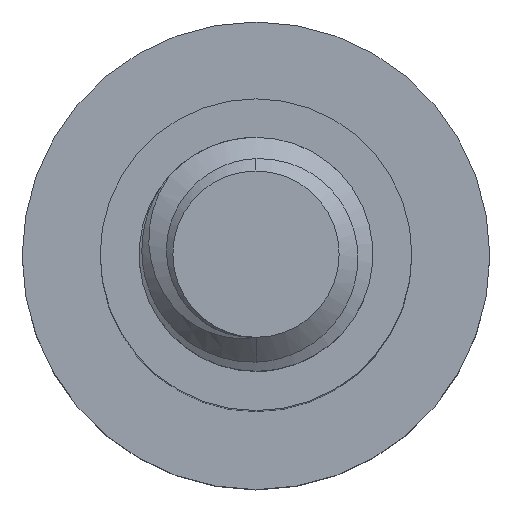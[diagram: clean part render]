
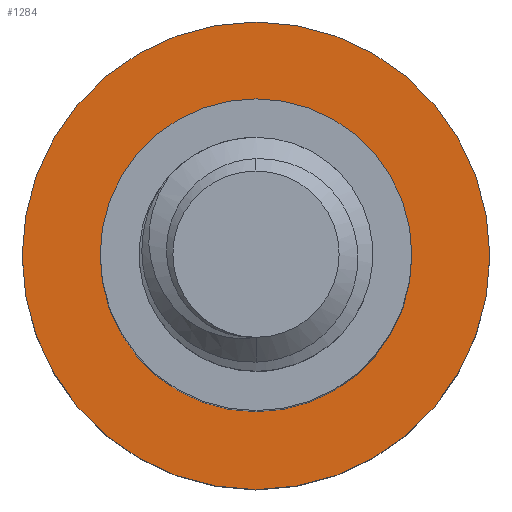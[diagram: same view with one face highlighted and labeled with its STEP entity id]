
A CAD part, top view. The second image highlights one B-rep face of the part: STEP entity #1284.
In plain terms, the highlighted planar face has unit normal (0, 0, 1).
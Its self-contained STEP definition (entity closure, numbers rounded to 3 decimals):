
#5 = DIRECTION ( 'NONE',  ( -1., 0., 0. ) ) ;
#9 = CARTESIAN_POINT ( 'NONE',  ( 0., 0., -8. ) ) ;
#72 = FACE_BOUND ( 'NONE', #2041, .T. ) ;
#234 = DIRECTION ( 'NONE',  ( 0., 0., -1. ) ) ;
#250 = AXIS2_PLACEMENT_3D ( 'NONE', #1988, #234, #2146 ) ;
#326 = CIRCLE ( 'NONE', #717, 2. ) ;
#369 = PLANE ( 'NONE',  #1776 ) ;
#402 = VERTEX_POINT ( 'NONE', #865 ) ;
#559 = DIRECTION ( 'NONE',  ( -1., 0., 0. ) ) ;
#598 = CARTESIAN_POINT ( 'NONE',  ( 2., 0., -8. ) ) ;
#697 = ORIENTED_EDGE ( 'NONE', *, *, #1350, .F. ) ;
#717 = AXIS2_PLACEMENT_3D ( 'NONE', #1059, #1270, #559 ) ;
#820 = EDGE_CURVE ( 'NONE', #402, #1151, #1406, .T. ) ;
#821 = CIRCLE ( 'NONE', #250, 3. ) ;
#855 = CARTESIAN_POINT ( 'NONE',  ( -3., 0., -8. ) ) ;
#865 = CARTESIAN_POINT ( 'NONE',  ( 3., 0., -8. ) ) ;
#883 = DIRECTION ( 'NONE',  ( 0., 0., -1. ) ) ;
#932 = DIRECTION ( 'NONE',  ( 0., 0., -1. ) ) ;
#944 = ORIENTED_EDGE ( 'NONE', *, *, #820, .F. ) ;
#949 = EDGE_CURVE ( 'NONE', #2241, #1275, #326, .T. ) ;
#1009 = ORIENTED_EDGE ( 'NONE', *, *, #949, .T. ) ;
#1059 = CARTESIAN_POINT ( 'NONE',  ( 0., 0., -8. ) ) ;
#1151 = VERTEX_POINT ( 'NONE', #855 ) ;
#1220 = DIRECTION ( 'NONE',  ( -1., 0., 0. ) ) ;
#1223 = AXIS2_PLACEMENT_3D ( 'NONE', #1383, #1873, #2248 ) ;
#1270 = DIRECTION ( 'NONE',  ( 0., 0., -1. ) ) ;
#1275 = VERTEX_POINT ( 'NONE', #1438 ) ;
#1284 = ADVANCED_FACE ( 'NONE', ( #72, #1635 ), #369, .F. ) ;
#1350 = EDGE_CURVE ( 'NONE', #1151, #402, #821, .T. ) ;
#1383 = CARTESIAN_POINT ( 'NONE',  ( 0., 0., -8. ) ) ;
#1406 = CIRCLE ( 'NONE', #1631, 3. ) ;
#1438 = CARTESIAN_POINT ( 'NONE',  ( -2., 0., -8. ) ) ;
#1475 = CARTESIAN_POINT ( 'NONE',  ( 0., 0., -8. ) ) ;
#1631 = AXIS2_PLACEMENT_3D ( 'NONE', #9, #883, #1220 ) ;
#1635 = FACE_OUTER_BOUND ( 'NONE', #2112, .T. ) ;
#1776 = AXIS2_PLACEMENT_3D ( 'NONE', #1475, #932, #5 ) ;
#1873 = DIRECTION ( 'NONE',  ( 0., 0., -1. ) ) ;
#1965 = CIRCLE ( 'NONE', #1223, 2. ) ;
#1988 = CARTESIAN_POINT ( 'NONE',  ( 0., 0., -8. ) ) ;
#2023 = EDGE_CURVE ( 'NONE', #1275, #2241, #1965, .T. ) ;
#2041 = EDGE_LOOP ( 'NONE', ( #2129, #1009 ) ) ;
#2112 = EDGE_LOOP ( 'NONE', ( #944, #697 ) ) ;
#2129 = ORIENTED_EDGE ( 'NONE', *, *, #2023, .T. ) ;
#2146 = DIRECTION ( 'NONE',  ( -1., 0., 0. ) ) ;
#2241 = VERTEX_POINT ( 'NONE', #598 ) ;
#2248 = DIRECTION ( 'NONE',  ( -1., 0., 0. ) ) ;
